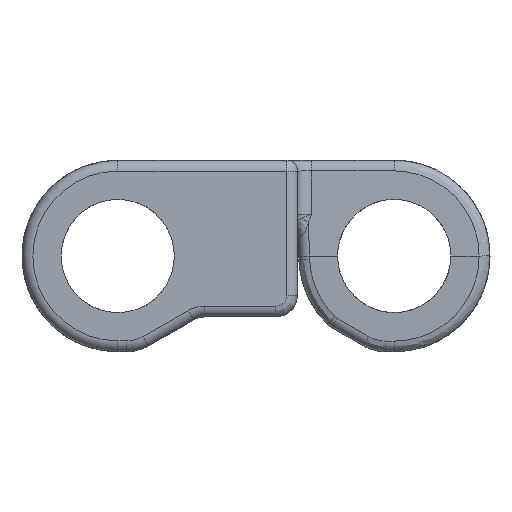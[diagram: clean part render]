
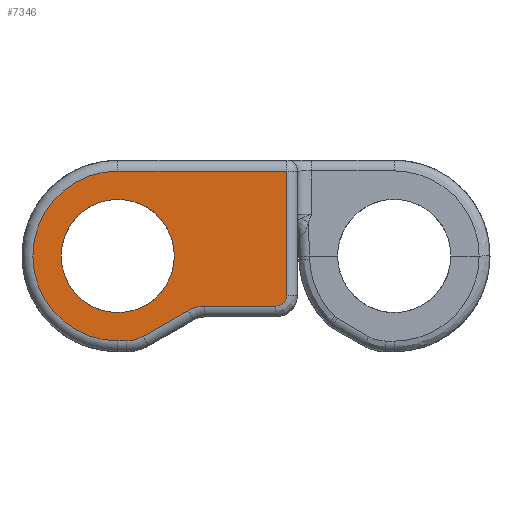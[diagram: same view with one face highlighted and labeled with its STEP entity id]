
A CAD part, left-side view. The second image highlights one B-rep face of the part: STEP entity #7346.
In plain terms, the highlighted planar face has unit normal (-1, 0, 0).
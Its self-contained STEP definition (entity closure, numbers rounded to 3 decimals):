
#13=CARTESIAN_POINT('',(0.,6.35,0.));
#14=DIRECTION('',(-1.,0.,0.));
#15=DIRECTION('',(0.,-1.,0.));
#16=AXIS2_PLACEMENT_3D('',#13,#14,#15);
#18=CARTESIAN_POINT('',(0.,6.35,0.));
#19=DIRECTION('',(-1.,0.,0.));
#20=DIRECTION('',(0.,1.,0.));
#21=AXIS2_PLACEMENT_3D('',#18,#19,#20);
#23=DIRECTION('',(0.,1.,0.));
#24=VECTOR('',#23,7.76);
#25=CARTESIAN_POINT('',(0.,-1.41,3.9));
#26=LINE('',#25,#24);
#27=DIRECTION('',(0.,0.,1.));
#28=VECTOR('',#27,5.7);
#29=CARTESIAN_POINT('',(0.,-1.41,-1.8));
#30=LINE('',#29,#28);
#31=CARTESIAN_POINT('',(0.,-0.91,-1.8));
#32=DIRECTION('',(-1.,0.,0.));
#33=DIRECTION('',(0.,0.,-1.));
#34=AXIS2_PLACEMENT_3D('',#31,#32,#33);
#36=DIRECTION('',(0.,-1.,0.));
#37=VECTOR('',#36,3.272);
#38=CARTESIAN_POINT('',(0.,2.362,-2.3));
#39=LINE('',#38,#37);
#40=CARTESIAN_POINT('',(0.,2.362,-3.8));
#41=DIRECTION('',(1.,0.,0.));
#42=DIRECTION('',(0.,0.5,0.866));
#43=AXIS2_PLACEMENT_3D('',#40,#41,#42);
#45=DIRECTION('',(0.,-0.866,0.5));
#46=VECTOR('',#45,2.396);
#47=CARTESIAN_POINT('',(0.,5.187,-3.699));
#48=LINE('',#47,#46);
#49=CARTESIAN_POINT('',(0.,5.937,-2.4));
#50=DIRECTION('',(-1.,0.,0.));
#51=DIRECTION('',(0.,0.,-1.));
#52=AXIS2_PLACEMENT_3D('',#49,#50,#51);
#54=DIRECTION('',(0.,-1.,0.));
#55=VECTOR('',#54,0.413);
#56=CARTESIAN_POINT('',(0.,6.35,-3.9));
#57=LINE('',#56,#55);
#58=CARTESIAN_POINT('',(0.,6.35,0.));
#59=DIRECTION('',(-1.,0.,0.));
#60=DIRECTION('',(0.,0.,1.));
#61=AXIS2_PLACEMENT_3D('',#58,#59,#60);
#6537=CARTESIAN_POINT('',(0.,3.75,0.));
#6538=CARTESIAN_POINT('',(0.,8.95,0.));
#6539=VERTEX_POINT('',#6537);
#6540=VERTEX_POINT('',#6538);
#6817=CARTESIAN_POINT('',(0.,-1.41,3.9));
#6818=CARTESIAN_POINT('',(0.,6.35,3.9));
#6819=VERTEX_POINT('',#6817);
#6820=VERTEX_POINT('',#6818);
#6823=CARTESIAN_POINT('',(0.,6.35,-3.9));
#6824=VERTEX_POINT('',#6823);
#6827=CARTESIAN_POINT('',(0.,5.937,-3.9));
#6828=VERTEX_POINT('',#6827);
#6831=CARTESIAN_POINT('',(0.,5.187,-3.699));
#6832=VERTEX_POINT('',#6831);
#6835=CARTESIAN_POINT('',(0.,3.112,-2.501));
#6836=VERTEX_POINT('',#6835);
#6839=CARTESIAN_POINT('',(0.,2.362,-2.3));
#6840=VERTEX_POINT('',#6839);
#6843=CARTESIAN_POINT('',(0.,-0.91,-2.3));
#6844=VERTEX_POINT('',#6843);
#6847=CARTESIAN_POINT('',(0.,-1.41,-1.8));
#6848=VERTEX_POINT('',#6847);
#7315=CARTESIAN_POINT('',(0.,0.,0.));
#7316=DIRECTION('',(1.,0.,0.));
#7317=DIRECTION('',(0.,-1.,0.));
#7318=AXIS2_PLACEMENT_3D('',#7315,#7316,#7317);
#7319=PLANE('',#7318);
#7321=ORIENTED_EDGE('',*,*,#7320,.F.);
#7323=ORIENTED_EDGE('',*,*,#7322,.F.);
#7325=ORIENTED_EDGE('',*,*,#7324,.F.);
#7327=ORIENTED_EDGE('',*,*,#7326,.F.);
#7329=ORIENTED_EDGE('',*,*,#7328,.F.);
#7331=ORIENTED_EDGE('',*,*,#7330,.F.);
#7333=ORIENTED_EDGE('',*,*,#7332,.F.);
#7335=ORIENTED_EDGE('',*,*,#7334,.F.);
#7337=ORIENTED_EDGE('',*,*,#7336,.F.);
#7338=EDGE_LOOP('',(#7321,#7323,#7325,#7327,#7329,#7331,#7333,#7335,#7337));
#7339=FACE_OUTER_BOUND('',#7338,.F.);
#7341=ORIENTED_EDGE('',*,*,#7340,.T.);
#7343=ORIENTED_EDGE('',*,*,#7342,.T.);
#7344=EDGE_LOOP('',(#7341,#7343));
#7345=FACE_BOUND('',#7344,.F.);
#17=CIRCLE('',#16,2.6);
#22=CIRCLE('',#21,2.6);
#35=CIRCLE('',#34,0.5);
#44=CIRCLE('',#43,1.5);
#53=CIRCLE('',#52,1.5);
#62=CIRCLE('',#61,3.9);
#7320=EDGE_CURVE('',#6819,#6820,#26,.T.);
#7322=EDGE_CURVE('',#6848,#6819,#30,.T.);
#7324=EDGE_CURVE('',#6844,#6848,#35,.T.);
#7326=EDGE_CURVE('',#6840,#6844,#39,.T.);
#7328=EDGE_CURVE('',#6836,#6840,#44,.T.);
#7330=EDGE_CURVE('',#6832,#6836,#48,.T.);
#7332=EDGE_CURVE('',#6828,#6832,#53,.T.);
#7334=EDGE_CURVE('',#6824,#6828,#57,.T.);
#7336=EDGE_CURVE('',#6820,#6824,#62,.T.);
#7340=EDGE_CURVE('',#6539,#6540,#17,.T.);
#7342=EDGE_CURVE('',#6540,#6539,#22,.T.);
#7346=ADVANCED_FACE('',(#7339,#7345),#7319,.F.);
